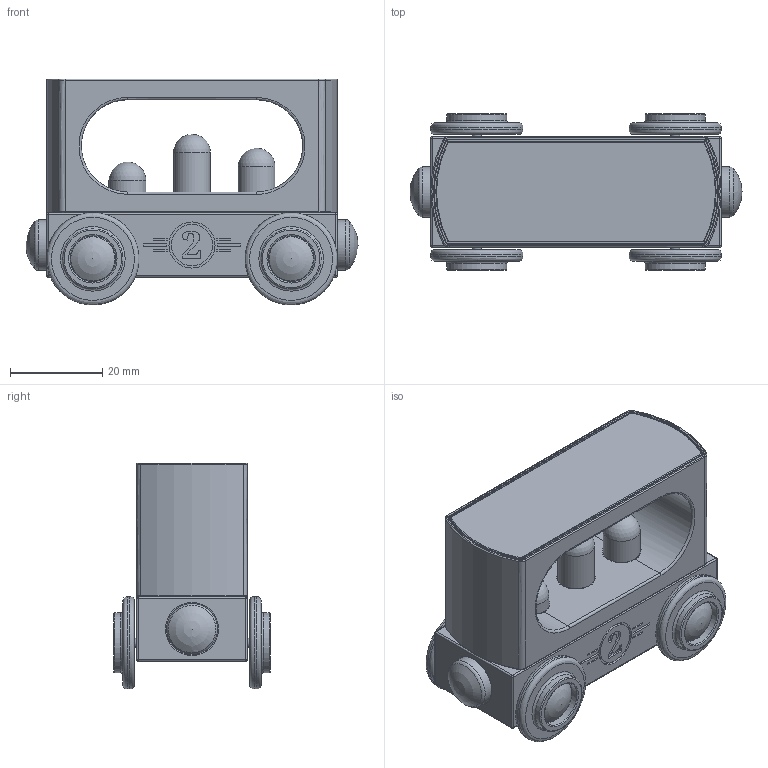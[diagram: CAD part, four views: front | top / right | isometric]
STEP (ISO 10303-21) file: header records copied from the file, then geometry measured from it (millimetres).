
FILE_DESCRIPTION( ( '' ), ' ' );
FILE_NAME( '/vol/tmp/translate-5980041147838476568/58415cc5c1ad3a10bad0803b.step', '2016-12-02T11:36:38', ( '' ), ( '' ), ' ', ' ', ' ' );
FILE_SCHEMA( ( 'AUTOMOTIVE_DESIGN { 1 0 10303 214 1 1 1 1 }' ) );
Length unit declared in the file: metre
Products named in the file (16): Wheel <1>; Wheel_WhiteTranslucent; Hubcap_ShinyChrome; Wheel <2>; Wheels on axle <2>; Axle_ShinyChrome; Wheels on axle <1>; Assem1; Base_BlackWood; Cabin_ShinyWhite; Passenger 1_LightBlue; Passenger 2_LimeGreen; Passenger 3_DeepOrange; Coupling_LightOrange
Assembly tree (23 placements, depth 4):
  Assem1
    Base_BlackWood
    Cabin_ShinyWhite
    Passenger 1_LightBlue
    Passenger 2_LimeGreen
    Passenger 3_DeepOrange
    Coupling_LightOrange  x2
    Wheels on axle <1>
      Axle_ShinyChrome
      Wheel <1>
        Wheel_WhiteTranslucent
        Hubcap_ShinyChrome
      Wheel <2>
        Wheel_WhiteTranslucent
        Hubcap_ShinyChrome
    Wheels on axle <2>
      Axle_ShinyChrome
      Wheel <1>
        Wheel_WhiteTranslucent
        Hubcap_ShinyChrome
      Wheel <2>
        Wheel_WhiteTranslucent
        Hubcap_ShinyChrome
Bounding box: 72 x 34 x 49 mm (x, y, z)
Volume: 48289.5 mm3; surface area: 21721.1 mm2
Topology: 17 solids, 17 shells, 350 faces, 793 edges, 491 vertices
Faces by surface type: plane 134, cylinder 66, extrusion 60, bspline 40, torus 29, sphere 17, offset 4
Full cylindrical faces by diameter (mm): 2 x8, 8 x6, 9 x2, 10 x10, 11 x4, 13 x4, 20 x4
Entity records: 15606 total; most frequent: CARTESIAN_POINT 6886, ORIENTED_EDGE 1272, DIRECTION 1052, EDGE_CURVE 636, VERTEX_POINT 423, VECTOR 378, EDGE_LOOP 356, AXIS2_PLACEMENT_3D 337
